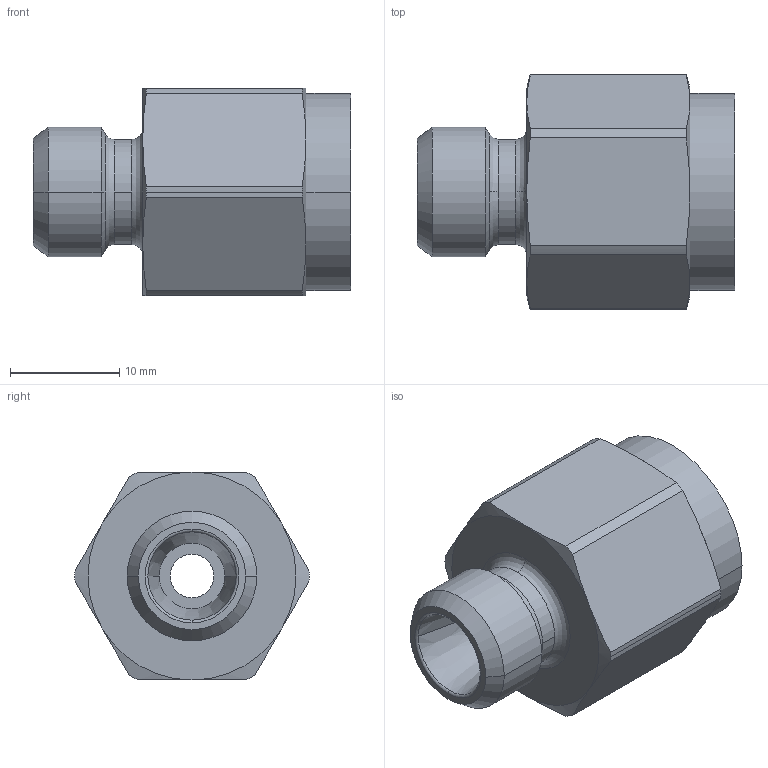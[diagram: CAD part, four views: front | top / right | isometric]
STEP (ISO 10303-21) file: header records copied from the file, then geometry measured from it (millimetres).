
FILE_DESCRIPTION((''),'2;1');
FILE_NAME('105904.stp','2007-10-31T14:46:24',(''),(''),'AutoCAD STEP 2000i','AutoCAD 2000i',', , ');
FILE_SCHEMA(('CONFIG_CONTROL_DESIGN'));
Length unit declared in the file: millimetre
Products named in the file (2): 105904.0; CHIAVE SMUSSATA#0
Assembly tree (1 placements, depth 2):
  105904.0
    CHIAVE SMUSSATA#0
Bounding box: 29 x 21.4 x 19 mm (x, y, z)
Volume: 4723.1 mm3; surface area: 2872.3 mm2
Topology: 1 solids, 1 shells, 58 faces, 138 edges, 86 vertices
Faces by surface type: cylinder 20, cone 20, plane 12, bspline 4, torus 2
Entity records: 1947 total; most frequent: CARTESIAN_POINT 508, DIRECTION 306, ORIENTED_EDGE 276, EDGE_CURVE 138, AXIS2_PLACEMENT_3D 136, VERTEX_POINT 86, CIRCLE 80, EDGE_LOOP 64
